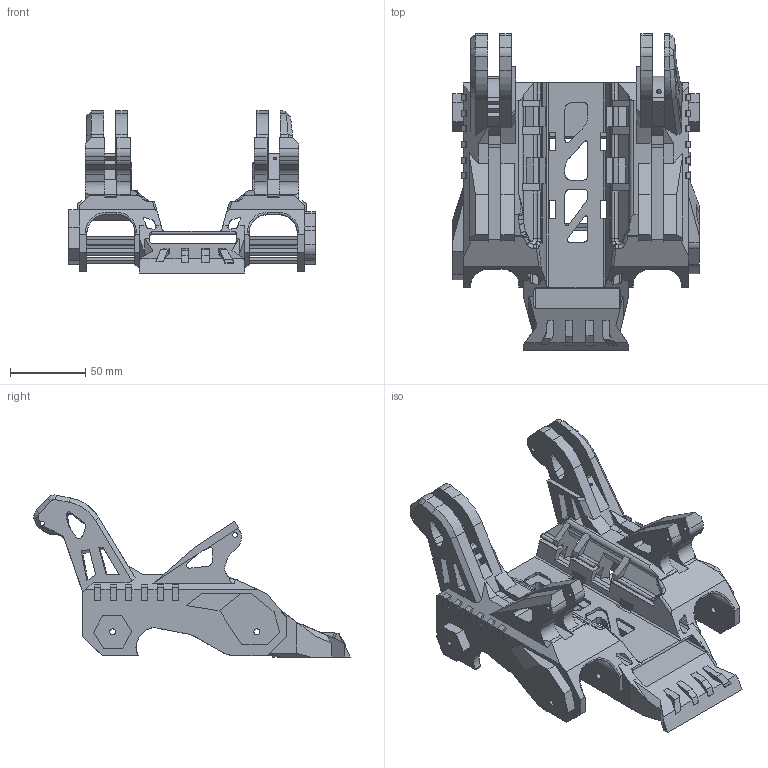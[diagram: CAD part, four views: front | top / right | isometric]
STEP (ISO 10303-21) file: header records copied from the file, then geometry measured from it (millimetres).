
FILE_DESCRIPTION(/* description */ (''),/* implementation_level */ '2;1');
FILE_NAME(/* name */ '底盘A.prt.stp',/* time_stamp */ '2021-03-21T20:47:47+08:00',/* author */ (''),/* organization */ (''),/* preprocessor_version */ 'ST-DEVELOPER v16',/* originating_system */ 'SIEMENS PLM Software NX 10.0',/* authorisation */ '');
FILE_SCHEMA (('CONFIG_CONTROL_DESIGN'));
Length unit declared in the file: millimetre
Products named in the file (1): 底盘A
Bounding box: 164 x 210.56 x 107.85 mm (x, y, z)
Volume: 495361.2 mm3; surface area: 159141.8 mm2
Topology: 1 solids, 1 shells, 1018 faces, 3150 edges, 2081 vertices
Faces by surface type: plane 698, cylinder 258, bspline 43, extrusion 11, cone 7, sphere 1
Full cylindrical faces by diameter (mm): 1.9 x2, 2.9 x14, 3 x9, 4 x7
Entity records: 36772 total; most frequent: CARTESIAN_POINT 8751, ORIENTED_EDGE 6146, DIRECTION 5400, EDGE_CURVE 3073, VECTOR 2268, LINE 2257, VERTEX_POINT 2047, AXIS2_PLACEMENT_3D 1566
